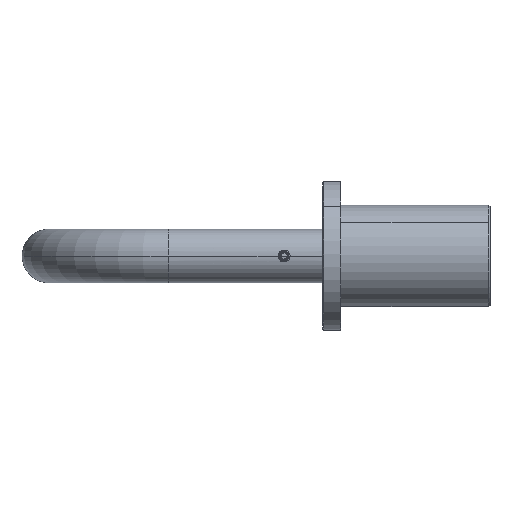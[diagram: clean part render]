
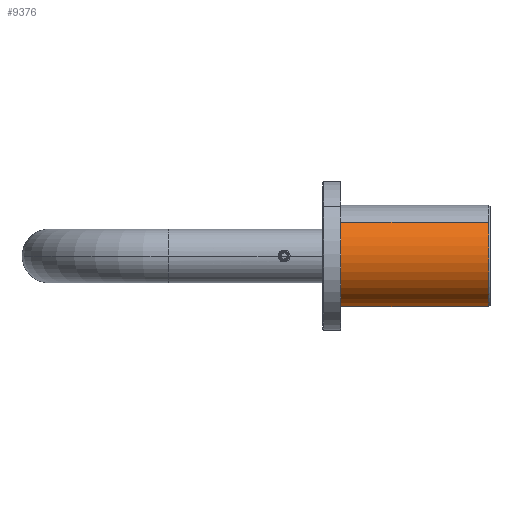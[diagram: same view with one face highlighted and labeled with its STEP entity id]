
A CAD part, left-side view. The second image highlights one B-rep face of the part: STEP entity #9376.
In plain terms, the highlighted cylindrical face has radius 17 mm (diameter 34 mm), a partial arc.
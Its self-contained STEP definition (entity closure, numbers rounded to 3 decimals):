
#100 = VECTOR ( 'NONE', #9732, 1000. ) ;
#102 = CYLINDRICAL_SURFACE ( 'NONE', #3679, 17. ) ;
#228 = VERTEX_POINT ( 'NONE', #4824 ) ;
#626 = ORIENTED_EDGE ( 'NONE', *, *, #5410, .T. ) ;
#712 = VERTEX_POINT ( 'NONE', #1648 ) ;
#1273 = ORIENTED_EDGE ( 'NONE', *, *, #5517, .T. ) ;
#1547 = CARTESIAN_POINT ( 'NONE',  ( 0., 0., 55.5 ) ) ;
#1648 = CARTESIAN_POINT ( 'NONE',  ( 17., 0., 55.5 ) ) ;
#2335 = DIRECTION ( 'NONE',  ( 1., 0., 0. ) ) ;
#2440 = VERTEX_POINT ( 'NONE', #5647 ) ;
#3240 = EDGE_CURVE ( 'NONE', #2440, #228, #3762, .T. ) ;
#3356 = CARTESIAN_POINT ( 'NONE',  ( 0., 0., 6. ) ) ;
#3369 = CARTESIAN_POINT ( 'NONE',  ( 17., 0., 6. ) ) ;
#3529 = AXIS2_PLACEMENT_3D ( 'NONE', #1547, #9359, #2335 ) ;
#3679 = AXIS2_PLACEMENT_3D ( 'NONE', #9069, #7493, #5916 ) ;
#3707 = CARTESIAN_POINT ( 'NONE',  ( 17., 0., 56. ) ) ;
#3762 = LINE ( 'NONE', #7434, #100 ) ;
#4335 = LINE ( 'NONE', #3707, #9299 ) ;
#4361 = ORIENTED_EDGE ( 'NONE', *, *, #3240, .T. ) ;
#4824 = CARTESIAN_POINT ( 'NONE',  ( -17., 0., 6. ) ) ;
#5189 = EDGE_CURVE ( 'NONE', #712, #7847, #4335, .T. ) ;
#5410 = EDGE_CURVE ( 'NONE', #712, #2440, #7739, .T. ) ;
#5517 = EDGE_CURVE ( 'NONE', #228, #7847, #8215, .T. ) ;
#5647 = CARTESIAN_POINT ( 'NONE',  ( -17., 0., 55.5 ) ) ;
#5916 = DIRECTION ( 'NONE',  ( -1., 0., 0. ) ) ;
#6442 = AXIS2_PLACEMENT_3D ( 'NONE', #3356, #7236, #7982 ) ;
#7236 = DIRECTION ( 'NONE',  ( 0., 0., 1. ) ) ;
#7434 = CARTESIAN_POINT ( 'NONE',  ( -17., 0., 56. ) ) ;
#7493 = DIRECTION ( 'NONE',  ( 0., 0., -1. ) ) ;
#7622 = DIRECTION ( 'NONE',  ( 0., 0., -1. ) ) ;
#7739 = CIRCLE ( 'NONE', #3529, 17. ) ;
#7764 = EDGE_LOOP ( 'NONE', ( #9462, #626, #4361, #1273 ) ) ;
#7847 = VERTEX_POINT ( 'NONE', #3369 ) ;
#7982 = DIRECTION ( 'NONE',  ( 1., 0., 0. ) ) ;
#8215 = CIRCLE ( 'NONE', #6442, 17. ) ;
#8391 = FACE_OUTER_BOUND ( 'NONE', #7764, .T. ) ;
#9069 = CARTESIAN_POINT ( 'NONE',  ( 0., 0., 56. ) ) ;
#9299 = VECTOR ( 'NONE', #7622, 1000. ) ;
#9359 = DIRECTION ( 'NONE',  ( 0., 0., -1. ) ) ;
#9376 = ADVANCED_FACE ( 'NONE', ( #8391 ), #102, .T. ) ;
#9462 = ORIENTED_EDGE ( 'NONE', *, *, #5189, .F. ) ;
#9732 = DIRECTION ( 'NONE',  ( 0., 0., -1. ) ) ;
